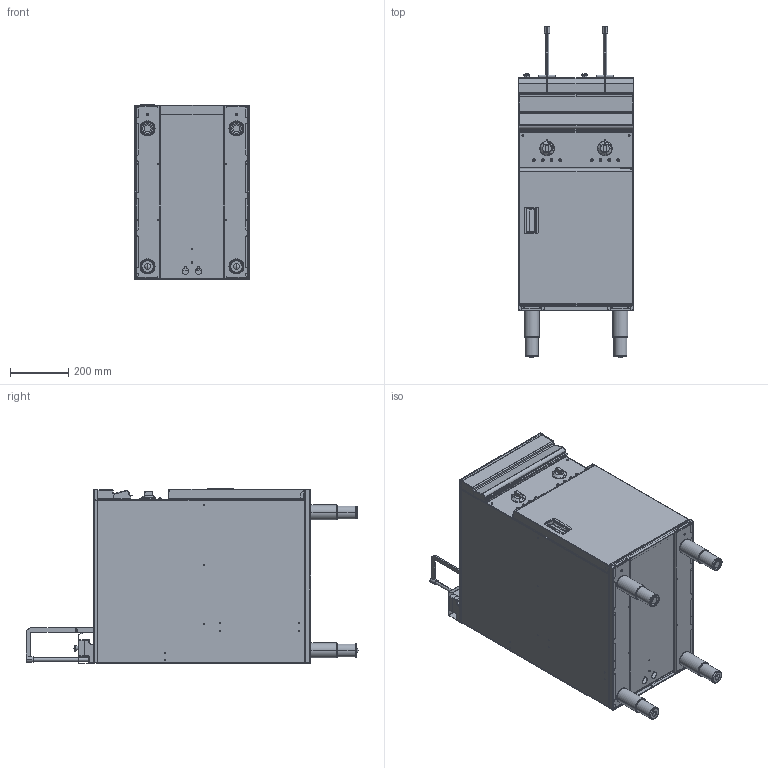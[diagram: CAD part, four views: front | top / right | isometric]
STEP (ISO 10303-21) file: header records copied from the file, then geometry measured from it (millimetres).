
FILE_DESCRIPTION (( 'STEP AP214' ), '1' );
FILE_NAME ('EVO2200.STEP', '2020-02-07T14:54:00', ( '' ), ( '' ), 'SwSTEP 2.0', 'SolidWorks 2019', '' );
FILE_SCHEMA (( 'AUTOMOTIVE_DESIGN' ));
Length unit declared in the file: millimetre
Products named in the file (1): EVO2200
Bounding box: 398 x 1142.8 x 601.5 mm (x, y, z)
Surface area: 4716356.6 mm2 (no closed solid volume)
Topology: 0 solids, 126 shells, 806 faces, 4070 edges, 3221 vertices
Faces by surface type: cylinder 334, plane 266, cone 101, bspline 73, torus 28, sphere 4
Entity records: 62975 total; most frequent: CARTESIAN_POINT 22566, DIRECTION 6605, ORIENTED_EDGE 5450, EDGE_CURVE 4070, VERTEX_POINT 3221, AXIS2_PLACEMENT_3D 2461, CIRCLE 1727, VECTOR 1683
